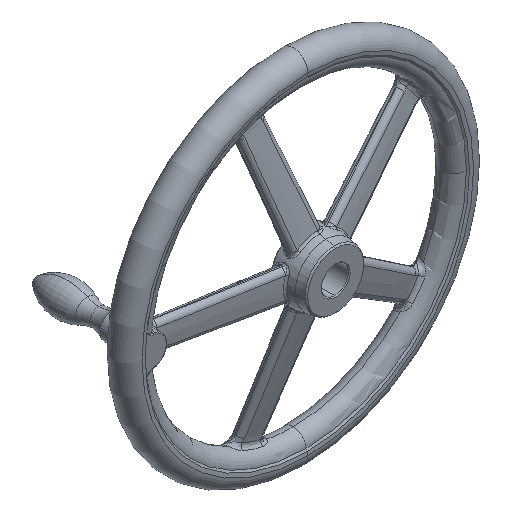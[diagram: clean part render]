
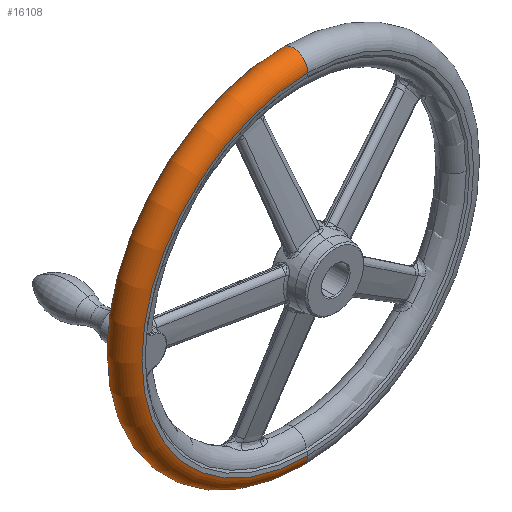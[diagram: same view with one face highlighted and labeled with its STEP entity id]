
A CAD part, isometric view. The second image highlights one B-rep face of the part: STEP entity #16108.
In plain terms, the highlighted toroidal (fillet/blend) face has major radius 184 mm and minor radius 16 mm.
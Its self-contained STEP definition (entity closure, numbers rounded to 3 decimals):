
#2692 = VERTEX_POINT ( 'NONE', #24293 ) ;
#2693 = EDGE_CURVE ( 'NONE', #2692, #2938, #24283, .T. ) ;
#2938 = VERTEX_POINT ( 'NONE', #24744 ) ;
#3627 = ORIENTED_EDGE ( 'NONE', *, *, #16062, .F. ) ;
#12706 = VERTEX_POINT ( 'NONE', #52633 ) ;
#14713 = CARTESIAN_POINT ( 'NONE',  ( 0., 31., 184. ) ) ;
#15268 = EDGE_LOOP ( 'NONE', ( #3627, #16173, #16536, #16511 ) ) ;
#16062 = EDGE_CURVE ( 'NONE', #2692, #59116, #54412, .T. ) ;
#16064 = EDGE_CURVE ( 'NONE', #59116, #12706, #54371, .T. ) ;
#16108 = ADVANCED_FACE ( 'NONE', ( #54413 ), #54484, .T. ) ;
#16173 = ORIENTED_EDGE ( 'NONE', *, *, #2693, .T. ) ;
#16324 = EDGE_CURVE ( 'NONE', #2938, #12706, #54493, .T. ) ;
#16511 = ORIENTED_EDGE ( 'NONE', *, *, #16064, .F. ) ;
#16536 = ORIENTED_EDGE ( 'NONE', *, *, #16324, .T. ) ;
#24274 = DIRECTION ( 'NONE',  ( 0., 0., -1. ) ) ;
#24275 = DIRECTION ( 'NONE',  ( 0., -1., 0. ) ) ;
#24276 = CARTESIAN_POINT ( 'NONE',  ( 0., 63., 0. ) ) ;
#24283 = CIRCLE ( 'NONE', #24329, 184. ) ;
#24293 = CARTESIAN_POINT ( 'NONE',  ( 0., 63., 184. ) ) ;
#24329 = AXIS2_PLACEMENT_3D ( 'NONE', #24276, #24275, #24274 ) ;
#24744 = CARTESIAN_POINT ( 'NONE',  ( 0., 63., -184. ) ) ;
#52633 = CARTESIAN_POINT ( 'NONE',  ( 0., 31., -184. ) ) ;
#54371 = CIRCLE ( 'NONE', #54375, 184. ) ;
#54372 = CARTESIAN_POINT ( 'NONE',  ( 0., 47., 184. ) ) ;
#54373 = CARTESIAN_POINT ( 'NONE',  ( 0., 31., 0. ) ) ;
#54375 = AXIS2_PLACEMENT_3D ( 'NONE', #54373, #54408, #54405 ) ;
#54398 = AXIS2_PLACEMENT_3D ( 'NONE', #54401, #54400, #54478 ) ;
#54400 = DIRECTION ( 'NONE',  ( 0., -1., 0. ) ) ;
#54401 = CARTESIAN_POINT ( 'NONE',  ( 0., 47., 0. ) ) ;
#54405 = DIRECTION ( 'NONE',  ( 0., 0., -1. ) ) ;
#54408 = DIRECTION ( 'NONE',  ( 0., -1., 0. ) ) ;
#54409 = DIRECTION ( 'NONE',  ( 0., 0., -1. ) ) ;
#54410 = DIRECTION ( 'NONE',  ( 1., 0., 0. ) ) ;
#54411 = AXIS2_PLACEMENT_3D ( 'NONE', #54372, #54410, #54409 ) ;
#54412 = CIRCLE ( 'NONE', #54411, 16. ) ;
#54413 = FACE_OUTER_BOUND ( 'NONE', #15268, .T. ) ;
#54478 = DIRECTION ( 'NONE',  ( 0., 0., -1. ) ) ;
#54484 = TOROIDAL_SURFACE ( 'NONE', #54398, 184., 16. ) ;
#54493 = CIRCLE ( 'NONE', #54532, 16. ) ;
#54529 = DIRECTION ( 'NONE',  ( 0., 0., 1. ) ) ;
#54530 = DIRECTION ( 'NONE',  ( -1., 0., 0. ) ) ;
#54531 = CARTESIAN_POINT ( 'NONE',  ( 0., 47., -184. ) ) ;
#54532 = AXIS2_PLACEMENT_3D ( 'NONE', #54531, #54530, #54529 ) ;
#59116 = VERTEX_POINT ( 'NONE', #14713 ) ;
